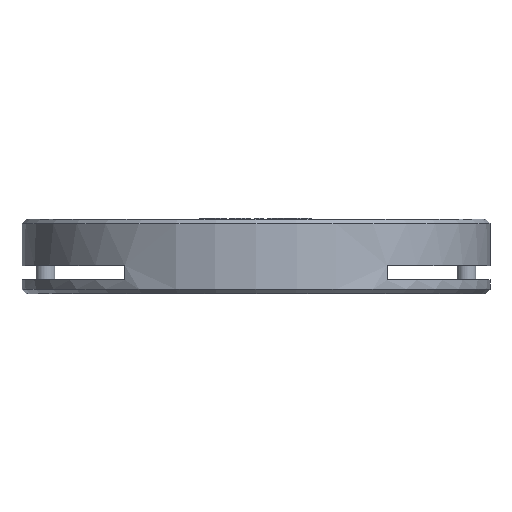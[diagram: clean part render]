
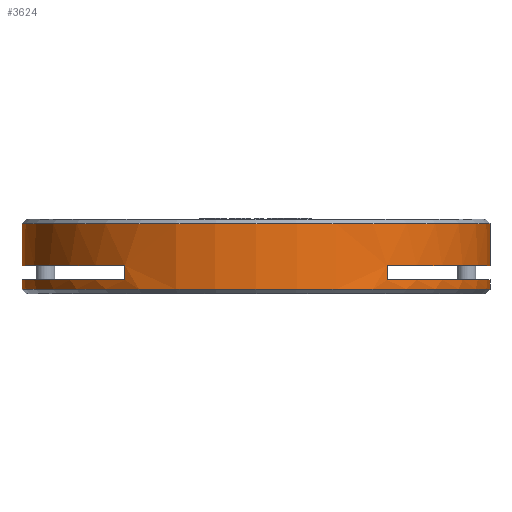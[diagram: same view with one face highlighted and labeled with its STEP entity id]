
A CAD part, left-side view. The second image highlights one B-rep face of the part: STEP entity #3624.
In plain terms, the highlighted cylindrical face has radius 25 mm (diameter 50 mm), a full revolution.
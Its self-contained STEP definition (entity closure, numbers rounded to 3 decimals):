
#20=CYLINDRICAL_SURFACE('',#3802,25.);
#41=FACE_BOUND('',#470,.T.);
#42=FACE_BOUND('',#471,.T.);
#56=CIRCLE('',#3788,25.);
#58=CIRCLE('',#3792,25.);
#65=CIRCLE('',#3803,25.);
#66=CIRCLE('',#3804,25.);
#67=CIRCLE('',#3805,25.);
#68=CIRCLE('',#3806,25.);
#277=FACE_OUTER_BOUND('',#469,.T.);
#469=EDGE_LOOP('',(#3047,#3048,#3049,#3050));
#470=EDGE_LOOP('',(#3051,#3052,#3053,#3054));
#471=EDGE_LOOP('',(#3055,#3056,#3057,#3058));
#923=LINE('',#5949,#1307);
#928=LINE('',#5975,#1312);
#931=LINE('',#5984,#1315);
#932=LINE('',#5988,#1316);
#933=LINE('',#5992,#1317);
#1307=VECTOR('',#4396,10.);
#1312=VECTOR('',#4421,10.);
#1315=VECTOR('',#4432,25.);
#1316=VECTOR('',#4435,10.);
#1317=VECTOR('',#4440,10.);
#1649=VERTEX_POINT('',#5939);
#1652=VERTEX_POINT('',#5946);
#1653=VERTEX_POINT('',#5948);
#1655=VERTEX_POINT('',#5954);
#1663=VERTEX_POINT('',#5972);
#1664=VERTEX_POINT('',#5974);
#1666=VERTEX_POINT('',#5982);
#1667=VERTEX_POINT('',#5985);
#1668=VERTEX_POINT('',#5987);
#1669=VERTEX_POINT('',#5990);
#2134=EDGE_CURVE('',#1649,#1649,#56,.T.);
#2137=EDGE_CURVE('',#1653,#1652,#923,.T.);
#2141=EDGE_CURVE('',#1652,#1655,#58,.T.);
#2149=EDGE_CURVE('',#1664,#1663,#928,.T.);
#2153=EDGE_CURVE('',#1666,#1666,#65,.T.);
#2154=EDGE_CURVE('',#1666,#1649,#931,.T.);
#2155=EDGE_CURVE('',#1663,#1667,#66,.T.);
#2156=EDGE_CURVE('',#1667,#1668,#932,.T.);
#2157=EDGE_CURVE('',#1668,#1664,#67,.T.);
#2158=EDGE_CURVE('',#1669,#1653,#68,.T.);
#2159=EDGE_CURVE('',#1655,#1669,#933,.T.);
#3047=ORIENTED_EDGE('',*,*,#2153,.F.);
#3048=ORIENTED_EDGE('',*,*,#2154,.T.);
#3049=ORIENTED_EDGE('',*,*,#2134,.F.);
#3050=ORIENTED_EDGE('',*,*,#2154,.F.);
#3051=ORIENTED_EDGE('',*,*,#2155,.T.);
#3052=ORIENTED_EDGE('',*,*,#2156,.T.);
#3053=ORIENTED_EDGE('',*,*,#2157,.T.);
#3054=ORIENTED_EDGE('',*,*,#2149,.T.);
#3055=ORIENTED_EDGE('',*,*,#2158,.T.);
#3056=ORIENTED_EDGE('',*,*,#2137,.T.);
#3057=ORIENTED_EDGE('',*,*,#2141,.T.);
#3058=ORIENTED_EDGE('',*,*,#2159,.T.);
#3624=ADVANCED_FACE('',(#277,#41,#42),#20,.T.);
#3788=AXIS2_PLACEMENT_3D('',#5941,#4390,#4391);
#3792=AXIS2_PLACEMENT_3D('',#5956,#4403,#4404);
#3802=AXIS2_PLACEMENT_3D('',#5981,#4428,#4429);
#3803=AXIS2_PLACEMENT_3D('',#5983,#4430,#4431);
#3804=AXIS2_PLACEMENT_3D('',#5986,#4433,#4434);
#3805=AXIS2_PLACEMENT_3D('',#5989,#4436,#4437);
#3806=AXIS2_PLACEMENT_3D('',#5991,#4438,#4439);
#4390=DIRECTION('center_axis',(0.,0.,-1.));
#4391=DIRECTION('ref_axis',(-1.,0.,0.));
#4396=DIRECTION('',(0.,0.,-1.));
#4403=DIRECTION('center_axis',(0.,0.,-1.));
#4404=DIRECTION('ref_axis',(-1.,0.,0.));
#4421=DIRECTION('',(0.,0.,1.));
#4428=DIRECTION('center_axis',(0.,0.,1.));
#4429=DIRECTION('ref_axis',(-1.,0.,0.));
#4430=DIRECTION('center_axis',(0.,0.,1.));
#4431=DIRECTION('ref_axis',(-1.,0.,0.));
#4432=DIRECTION('',(0.,0.,-1.));
#4433=DIRECTION('center_axis',(0.,0.,1.));
#4434=DIRECTION('ref_axis',(-1.,0.,0.));
#4435=DIRECTION('',(0.,0.,-1.));
#4436=DIRECTION('center_axis',(0.,0.,-1.));
#4437=DIRECTION('ref_axis',(-1.,0.,0.));
#4438=DIRECTION('center_axis',(0.,0.,1.));
#4439=DIRECTION('ref_axis',(-1.,0.,0.));
#4440=DIRECTION('',(0.,0.,1.));
#5939=CARTESIAN_POINT('',(25.,0.,0.5));
#5941=CARTESIAN_POINT('Origin',(0.,0.,0.5));
#5946=CARTESIAN_POINT('',(20.712,-14.,1.5));
#5948=CARTESIAN_POINT('',(20.712,-14.,3.));
#5949=CARTESIAN_POINT('',(20.712,-14.,0.));
#5954=CARTESIAN_POINT('',(-20.712,-14.,1.5));
#5956=CARTESIAN_POINT('Origin',(0.,0.,1.5));
#5972=CARTESIAN_POINT('',(20.712,14.,3.));
#5974=CARTESIAN_POINT('',(20.712,14.,1.5));
#5975=CARTESIAN_POINT('',(20.712,14.,0.));
#5981=CARTESIAN_POINT('Origin',(0.,0.,0.));
#5982=CARTESIAN_POINT('',(25.,0.,7.5));
#5983=CARTESIAN_POINT('Origin',(0.,0.,7.5));
#5984=CARTESIAN_POINT('',(25.,0.,0.));
#5985=CARTESIAN_POINT('',(-20.712,14.,3.));
#5986=CARTESIAN_POINT('Origin',(0.,0.,3.));
#5987=CARTESIAN_POINT('',(-20.712,14.,1.5));
#5988=CARTESIAN_POINT('',(-20.712,14.,0.));
#5989=CARTESIAN_POINT('Origin',(0.,0.,1.5));
#5990=CARTESIAN_POINT('',(-20.712,-14.,3.));
#5991=CARTESIAN_POINT('Origin',(0.,0.,3.));
#5992=CARTESIAN_POINT('',(-20.712,-14.,0.));
